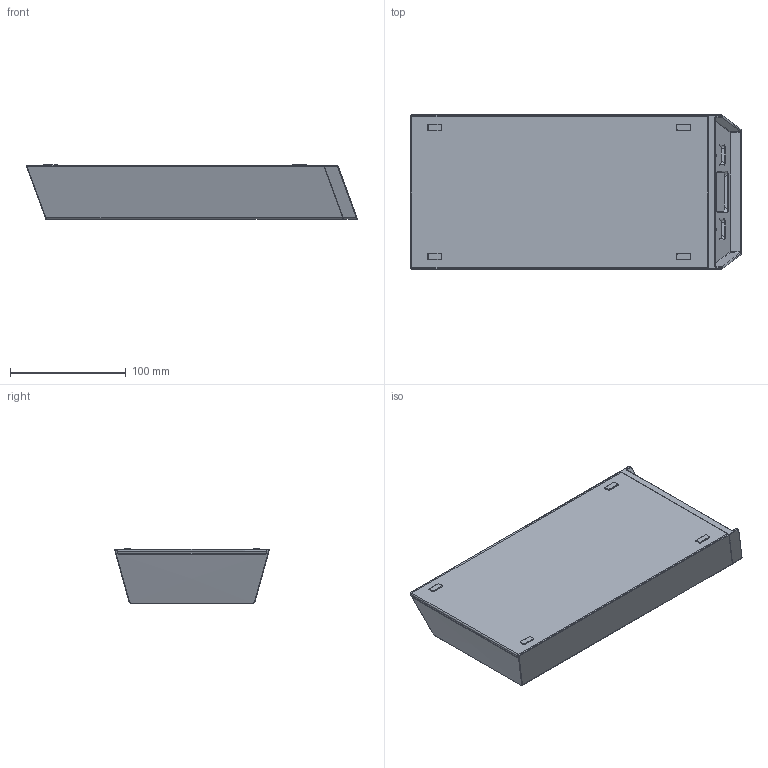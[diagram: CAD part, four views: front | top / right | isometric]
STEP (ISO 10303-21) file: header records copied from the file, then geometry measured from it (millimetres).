
FILE_DESCRIPTION(/* description */ (''),/* implementation_level */ '2;1');
FILE_NAME(/* name */ '455825_01_HP_PowerSupply.stp',/* time_stamp */ '2022-08-12T17:51:58-07:00',/* author */ (''),/* organization */ (''),/* preprocessor_version */ 'ST-DEVELOPER v18.102',/* originating_system */ 'SIEMENS PLM Software NX 2023',/* authorisation */ '');
FILE_SCHEMA (('AUTOMOTIVE_DESIGN { 1 0 10303 214 3 1 1 1 }'));
Length unit declared in the file: millimetre
Products named in the file (1): 01_objects
Bounding box: 284.96 x 133.18 x 47.25 mm (x, y, z)
Volume: 1458198.9 mm3; surface area: 117515 mm2
Topology: 2 solids, 2 shells, 634 faces, 1513 edges, 867 vertices
Faces by surface type: bspline 317, cylinder 167, plane 124, sphere 18, cone 4, torus 4
Entity records: 31723 total; most frequent: CARTESIAN_POINT 19301, ORIENTED_EDGE 2966, DIRECTION 2022, EDGE_CURVE 1483, VERTEX_POINT 870, AXIS2_PLACEMENT_3D 795, EDGE_LOOP 657, ADVANCED_FACE 634
